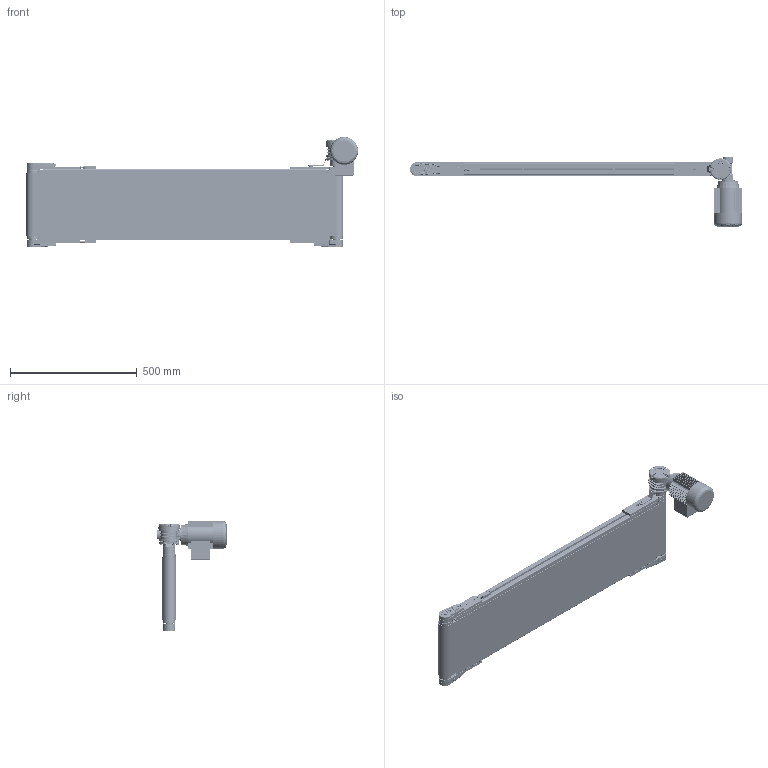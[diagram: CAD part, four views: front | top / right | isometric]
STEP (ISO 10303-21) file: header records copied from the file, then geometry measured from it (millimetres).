
FILE_DESCRIPTION (( 'STEP AP203' ), '1' );
FILE_NAME ('NASTRO_RETTILINEO_TAPPETO.step', '2026-05-05T06:57:50', ( 'Utente Windows' ), ( '' ), 'SwSTEP 2.0', 'SolidWorks 2024', '' );
FILE_SCHEMA (( 'CONFIG_CONTROL_DESIGN' ));
Length unit declared in the file: millimetre
Products named in the file (44): 084.301.000 VITI ALUSIC_084.301.009; 084.807.003_084.807.003<A macchina>; 084.811.004; TAPPETO_STANDARD; 084.811.001; BLOCCO_RINVIO_50_STANDARD; 084.808.012; VITI TCEI UNI 5931_M6x12 UNI 5931; 084.807.002_084.807.002; VITI TSEI UNI 5933_M5x12 UNI 5933; CH03P_DX; 084.303.001; 084.302.000 DADI ALUSIC 13x13_084.302.004; 084.803.018; BLOCCO_PERNO_50_30; 084.802.062; VITI TSEI UNI 5933 INOX_0412UNI5933A2; 084.301.000 VITI ALUSIC_084.301.003; LAMIERA_STANDARD; 084.802.008; 084.302.000 DADI ALUSIC 13x13-1_084.302.004; RULLO_50_Default<A macchina>; RONDELLE FASCIA LARGA UNI 6593_5.4x20 UNI 6593; 084.802.071; 084.802.065_Default<A macchina>; VITI TSEI UNI 5933_M4x10 UNI 5933; VITI TCEI UNI 5931_M4x25 UNI 5931; VITE_RONDELLA_M8X20; 084.810.001; BLOCCO_TRAINO_50_STANDARD; VITI TE UNI 5739_M6x16 UNI 5739; 084.802.061; TELAIO_50_STANDARD_Default<A macchina>; BLOCCO_TRAINO_50_STANDARD_30_DX; 084.302.000 DADI ALUSIC 13x13-1_084.302.007; 084.802.017_084.802.017; VITI TSEI UNI 5933_M4x12 UNI 5933; VITE_DADO_M5X12; 14UNI7435; NASTRO_RETTILINEO_TAPPETO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
Assembly tree (87 placements, depth 4):
  NASTRO_RETTILINEO_TAPPETO
    TAPPETO_STANDARD
    TELAIO_50_STANDARD_Default<A macchina>
    LAMIERA_STANDARD
    RULLO_50_Default<A macchina>  x2
    BLOCCO_PERNO_50_30
      084.810.001
      084.811.001
      RONDELLE FASCIA LARGA UNI 6593_5.4x20 UNI 6593
      084.301.000 VITI ALUSIC_084.301.009
      CHIAVETTE_A 5x5x40 UNI 6604-69
      CHIAVETTE_A 5x5x20 UNI 6604-69
      14UNI7435
    BLOCCO_TRAINO_50_STANDARD_30_DX
      084.807.003_084.807.003<A macchina>
      084.802.017_084.802.017
      084.301.000 VITI ALUSIC_084.301.003  x2
      084.302.000 DADI ALUSIC 13x13-1_084.302.004  x2
      BLOCCO_BRACCIO_CH03P_VF30P
        084.808.012
        084.802.062
        084.802.061
        VITI TE UNI 5739_M6x16 UNI 5739  x4
        084.803.018
        VITI TCEI UNI 5931_M6x12 UNI 5931  x4
      084.802.065_Default<A macchina>
      VITI TCEI UNI 5931_M4x25 UNI 5931  x2
    BLOCCO_PERNO_50_RINVIO  x3
      084.811.004
      084.810.001
    BLOCCO_TRAINO_50_STANDARD
      084.807.002_084.807.002
      084.802.017_084.802.017
      084.301.000 VITI ALUSIC_084.301.003  x2
      084.302.000 DADI ALUSIC 13x13-1_084.302.004  x2
      VITI TSEI UNI 5933_M4x12 UNI 5933  x4
      084.802.071
      VITI TSEI UNI 5933 INOX_0412UNI5933A2  x2
    BLOCCO_RINVIO_50_STANDARD  x2
      084.807.002_084.807.002
      084.802.017_084.802.017
      084.802.008
      084.301.000 VITI ALUSIC_084.301.003
      084.302.000 DADI ALUSIC 13x13_084.302.004
      VITI TSEI UNI 5933_M4x10 UNI 5933
      084.802.071
    VITE_RONDELLA_M8X20  x5
      084.303.001
      084.301.000 VITI ALUSIC_084.301.003
    VITE_DADO_M5X12  x8
      084.302.000 DADI ALUSIC 13x13-1_084.302.007
      VITI TSEI UNI 5933_M5x12 UNI 5933
    CH03P_DX
Bounding box: 1312 x 273 x 435 mm (x, y, z)
Volume: 6443673.8 mm3; surface area: 4463117.7 mm2
Topology: 124 solids, 130 shells, 6431 faces, 16642 edges, 10634 vertices
Faces by surface type: plane 3157, cylinder 1834, cone 567, bspline 506, torus 329, sphere 38
Entity records: 140498 total; most frequent: CARTESIAN_POINT 40348, ORIENTED_EDGE 20530, DIRECTION 18808, EDGE_CURVE 10265, VERTEX_POINT 6594, AXIS2_PLACEMENT_3D 6480, LINE 5848, VECTOR 5848
